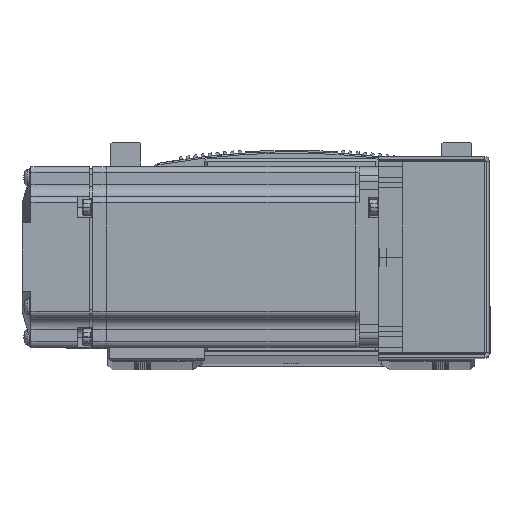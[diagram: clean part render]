
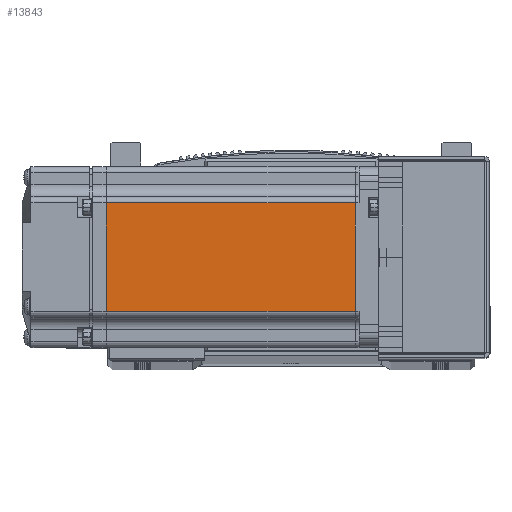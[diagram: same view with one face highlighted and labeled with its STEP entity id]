
A CAD part, top view. The second image highlights one B-rep face of the part: STEP entity #13843.
In plain terms, the highlighted planar face has unit normal (0, 0, 1) as drawn and (0, 1, 0) by its records, which use the part's own axes.
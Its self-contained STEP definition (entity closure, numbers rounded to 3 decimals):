
#5708 = VERTEX_POINT ( 'NONE', #16466 ) ;
#5709 = VERTEX_POINT ( 'NONE', #16680 ) ;
#5711 = VERTEX_POINT ( 'NONE', #16640 ) ;
#6883 = VERTEX_POINT ( 'NONE', #82107 ) ;
#13843 = ADVANCED_FACE ( 'NONE', ( #46430 ), #81645, .T. ) ;
#16466 = CARTESIAN_POINT ( 'NONE',  ( -7.75, 30., 18. ) ) ;
#16640 = CARTESIAN_POINT ( 'NONE',  ( -90.45, 30., -18. ) ) ;
#16680 = CARTESIAN_POINT ( 'NONE',  ( -7.75, 30., -18. ) ) ;
#20123 = CARTESIAN_POINT ( 'NONE',  ( -6.5, 30., 18. ) ) ;
#20186 = DIRECTION ( 'NONE',  ( 1., 0., 0. ) ) ;
#20228 = CARTESIAN_POINT ( 'NONE',  ( -90.45, 30., 0. ) ) ;
#20241 = DIRECTION ( 'NONE',  ( 0., 0., 1. ) ) ;
#20529 = CARTESIAN_POINT ( 'NONE',  ( -6.5, 30., -18. ) ) ;
#20556 = DIRECTION ( 'NONE',  ( -1., 0., 0. ) ) ;
#20570 = CARTESIAN_POINT ( 'NONE',  ( -7.75, 30., 0. ) ) ;
#20572 = DIRECTION ( 'NONE',  ( 0., 0., 1. ) ) ;
#21189 = VECTOR ( 'NONE', #20186, 1000. ) ;
#21205 = LINE ( 'NONE', #20123, #21189 ) ;
#21258 = LINE ( 'NONE', #20228, #21285 ) ;
#21285 = VECTOR ( 'NONE', #20241, 1000. ) ;
#21293 = LINE ( 'NONE', #20570, #21342 ) ;
#21294 = VECTOR ( 'NONE', #20556, 1000. ) ;
#21330 = LINE ( 'NONE', #20529, #21294 ) ;
#21342 = VECTOR ( 'NONE', #20572, 1000. ) ;
#46430 = FACE_OUTER_BOUND ( 'NONE', #89886, .T. ) ;
#62219 = AXIS2_PLACEMENT_3D ( 'NONE', #81625, #81621, #81655 ) ;
#72577 = EDGE_CURVE ( 'NONE', #6883, #5708, #21205, .T. ) ;
#72601 = EDGE_CURVE ( 'NONE', #5711, #6883, #21258, .T. ) ;
#72640 = EDGE_CURVE ( 'NONE', #5709, #5708, #21293, .T. ) ;
#72641 = EDGE_CURVE ( 'NONE', #5709, #5711, #21330, .T. ) ;
#81621 = DIRECTION ( 'NONE',  ( 0., 1., 0. ) ) ;
#81625 = CARTESIAN_POINT ( 'NONE',  ( -6.5, 30., 25. ) ) ;
#81645 = PLANE ( 'NONE',  #62219 ) ;
#81655 = DIRECTION ( 'NONE',  ( 0., 0., 1. ) ) ;
#82107 = CARTESIAN_POINT ( 'NONE',  ( -90.45, 30., 18. ) ) ;
#89886 = EDGE_LOOP ( 'NONE', ( #91539, #91504, #91535, #91537 ) ) ;
#91504 = ORIENTED_EDGE ( 'NONE', *, *, #72641, .T. ) ;
#91535 = ORIENTED_EDGE ( 'NONE', *, *, #72601, .T. ) ;
#91537 = ORIENTED_EDGE ( 'NONE', *, *, #72577, .T. ) ;
#91539 = ORIENTED_EDGE ( 'NONE', *, *, #72640, .F. ) ;
